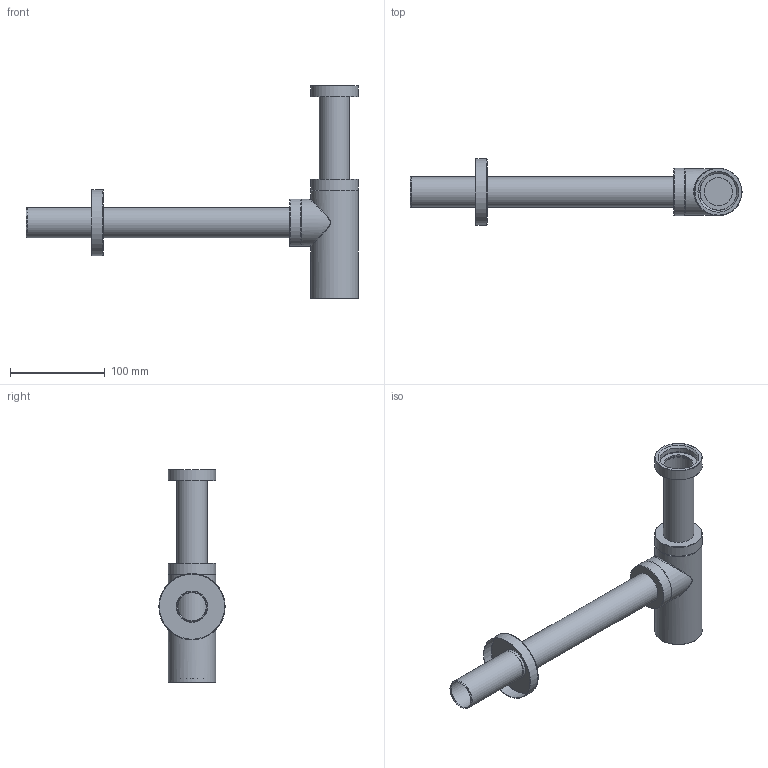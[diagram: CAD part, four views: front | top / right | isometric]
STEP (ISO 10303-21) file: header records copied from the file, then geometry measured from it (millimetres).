
FILE_DESCRIPTION(/* description */ ('Unknown'),/* implementation_level */ '2;1');
FILE_NAME(/* name */ 'RE044',/* time_stamp */ '2023-06-20T17:52:51+02:00',/* author */ ('Unknown'),/* organization */ ('Unknown'),/* preprocessor_version */ 'ST-DEVELOPER v18.102',/* originating_system */ 'Solid Edge',/* authorisation */ 'Unknown');
FILE_SCHEMA (('AUTOMOTIVE_DESIGN {1 0 10303 214 3 1 1}'));
Length unit declared in the file: millimetre
Products named in the file (13): RE044; RE044-01; RE044-02; RE044-03; RE044-04; RE044-05; RE044-07; RE044-08; RE044-09; RE044-06; RE044-11; RE044-10; RE044-12
Assembly tree (13 placements, depth 2):
  RE044
    RE044-01
    RE044-02
    RE044-03
    RE044-04
    RE044-05
    RE044-07
    RE044-08
    RE044-09
    RE044-06  x2
    RE044-11
    RE044-10
    RE044-12
Bounding box: 350.5 x 70 x 224.79 mm (x, y, z)
Volume: 152557.9 mm3; surface area: 204849.3 mm2
Topology: 13 solids, 13 shells, 128 faces, 240 edges, 152 vertices
Faces by surface type: cylinder 45, plane 42, torus 30, cone 10, bspline 1
Full cylindrical faces by diameter (mm): 29.7 x1, 30.6 x1, 31 x1, 31.8 x1, 32 x2, 32.004 x1, 32.5 x3, 32.6 x2, 32.7 x1, 34.6 x1, 35.4 x1, 37 x1, 38.6 x1, 38.7 x1, 38.952 x1, 39.5 x1, 40.917 x2, 41 x2, 42 x3, 43 x4, 43.917 x1, 45 x1, 46.7 x1, 47.2 x1, 49.3 x1, 50 x4, 69.2 x1, 70 x1
Entity records: 3540 total; most frequent: CARTESIAN_POINT 743, DIRECTION 484, ORIENTED_EDGE 244, AXIS2_PLACEMENT_3D 239, FACE_BOUND 228, EDGE_LOOP 226, EDGE_CURVE 122, VERTEX_POINT 120
